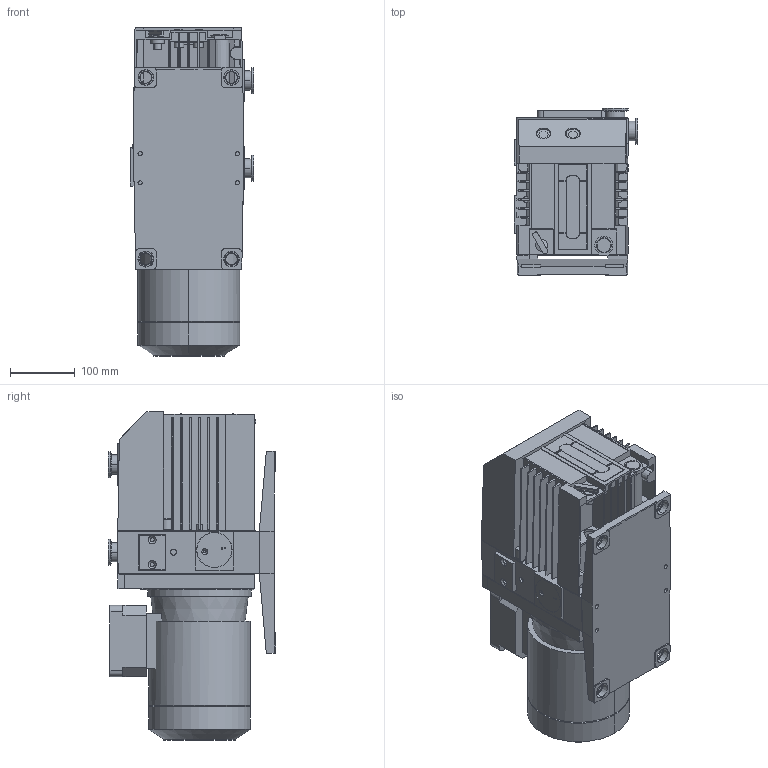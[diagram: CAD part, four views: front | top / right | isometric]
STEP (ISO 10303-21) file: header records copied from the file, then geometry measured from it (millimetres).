
FILE_DESCRIPTION((''),'2;1');
FILE_NAME('300591420_Y19_000_ASM','2016-03-17T',('56762'),('Copyright by Leybold GmbH'),'PRO/ENGINEER BY PARAMETRIC TECHNOLOGY CORPORATION, 2013320','PRO/ENGINEER BY PARAMETRIC TECHNOLOGY CORPORATION, 2013320','');
FILE_SCHEMA(('AUTOMOTIVE_DESIGN { 1 0 10303 214 1 1 1 1 }'));
Length unit declared in the file: millimetre
Products named in the file (19): 300591418_Y19_000; 300591187_Y19_000; 300591206_Y19_000; 300591212_Y19_000; 300591215_Y19_000; 300591188_Y19_000; 300591211_Y19_000; 300591416_Y19_000; 300590946_Y19_000; 300591208_Y19_000; 300591209_Y19_000; 300591419_Y19_000_ASM; 300592868_Y19_000; 300590935_Y19_000; 300590913_Y19_000; 300590922_Y19_000_ASM; 300591217_Y19_000; 300591196_Y19_000; 300591420_Y19_000_ASM
Assembly tree (23 placements, depth 3):
  300591420_Y19_000_ASM
    300591419_Y19_000_ASM
      300591418_Y19_000
      300591187_Y19_000
      300591206_Y19_000
      300591212_Y19_000
      300591215_Y19_000
      300591188_Y19_000
      300591211_Y19_000
      300591416_Y19_000
      300590946_Y19_000
      300591208_Y19_000
      300591209_Y19_000
    300592868_Y19_000
    300590935_Y19_000  x3
    300590922_Y19_000_ASM
      300590913_Y19_000
    300591217_Y19_000
    300591196_Y19_000  x4
Bounding box: 190.9 x 257.5 x 506.79 mm (x, y, z)
Volume: 14523009.3 mm3; surface area: 1145280.6 mm2
Topology: 20 solids, 27 shells, 1085 faces, 2795 edges, 1827 vertices
Faces by surface type: plane 719, cylinder 246, cone 120
Entity records: 30016 total; most frequent: CARTESIAN_POINT 6124, ORIENTED_EDGE 4726, DIRECTION 4706, EDGE_CURVE 2363, VECTOR 1762, LINE 1762, VERTEX_POINT 1551, AXIS2_PLACEMENT_3D 1472
